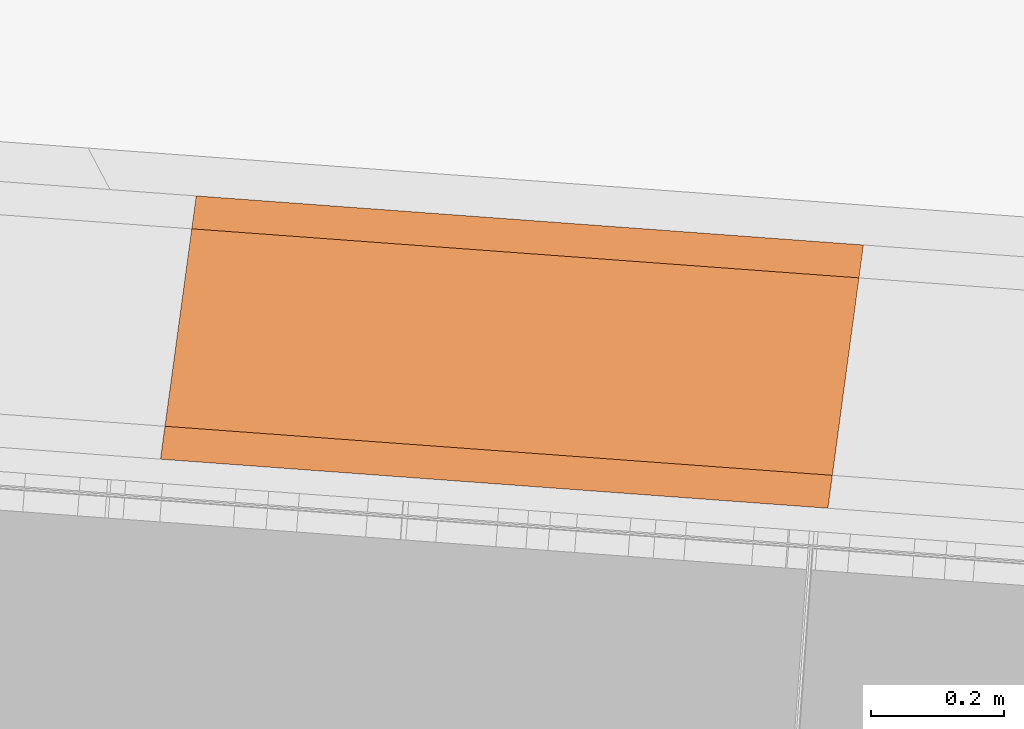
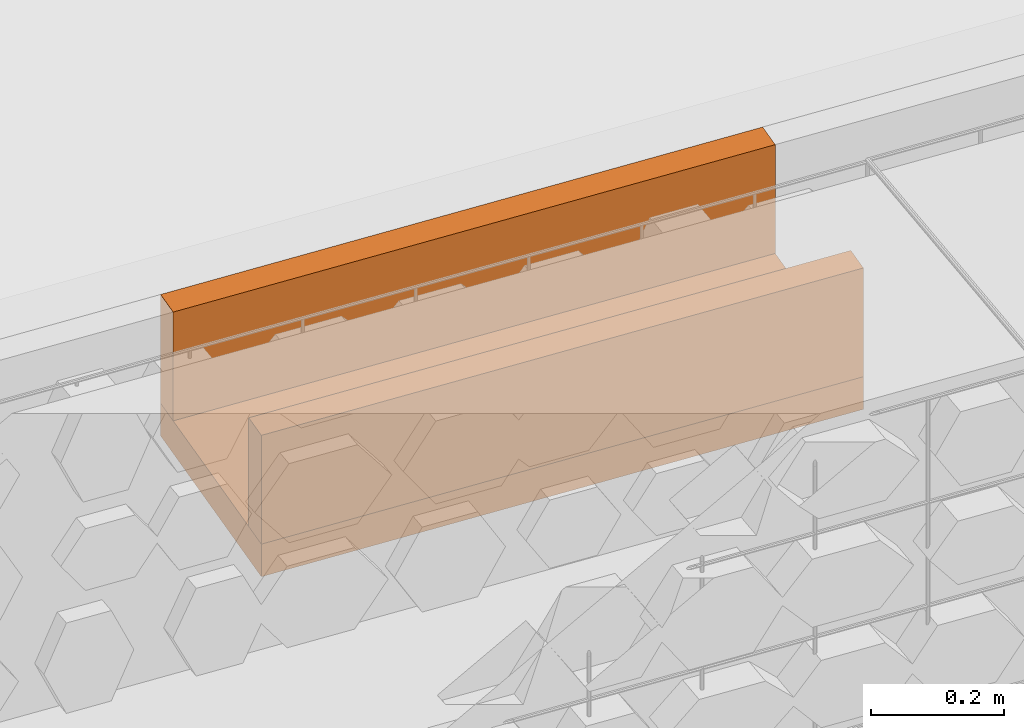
# Not in any storey, part 26 of 45: 3 proxies.
"""IFC4 model written with IfcOpenShell, lengths in metres."""

from ifc_helpers import new_model, si_unit, direction, frame, origin_with_axes, place, context, subcontext, project, spatial, polygons, material, element, save


model = new_model("IFC4")

# Units and contexts
model_context = context("Model", 3, precision=1e-05, world=origin_with_axes(), true_north=direction((0.0, 1.0)))
body_context = subcontext(model_context, "Body", "Model", "MODEL_VIEW")
ifc_project = project(units=[si_unit("VOLUMEUNIT", "CUBIC_METRE"), si_unit("LENGTHUNIT", "METRE"), si_unit("AREAUNIT", "SQUARE_METRE")], contexts=[model_context])

# Site
site_placement = place(None, origin_with_axes())
site = spatial("IfcSite", under=ifc_project, at=site_placement, Name="Lares · Rua das Mercês · artigo 4771")

# Proxies
ifc_material = material(Name="Caleiras · betão", Category="concrete")
proxy_1_placement = place(site_placement, frame((0.0, 0.0, 0.0), z_axis=(0.0, 0.0, 1.0), x_axis=(1.0, -1.03767253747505e-17, 0.0)))
element("IfcBuildingElementProxy", 1, at=proxy_1_placement, inside=site, material=ifc_material, Name="Acesso · canal lateral", ObjectType="Acesso · canal lateral", PredefinedType="USERDEFINED", context=body_context, shape_type="Tessellation", body=[
    polygons([(57.6226760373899, 1.93440152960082, 15.229), (57.6762744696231, 2.33079427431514, 15.229), (58.6809436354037, 2.25691467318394, 15.23), (58.6273452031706, 1.86052192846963, 15.23), (57.6226760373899, 1.93440152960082, 15.289), (57.6762744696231, 2.33079427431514, 15.289), (58.6809436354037, 2.25691467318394, 15.29), (58.6273452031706, 1.86052192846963, 15.29)], [[[4, 3, 2, 1]], [[5, 6, 7, 8]], [[1, 2, 6, 5]], [[2, 3, 7, 6]], [[3, 4, 8, 7]], [[4, 1, 5, 8]]]),
])
proxy_2_placement = place(site_placement, frame((0.0, 0.0, 0.0), z_axis=(0.0, 0.0, 1.0), x_axis=(1.0, -1.03767253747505e-17, 0.0)))
element("IfcBuildingElementProxy", 2, at=proxy_2_placement, inside=site, material=ifc_material, Name="Acesso · canal lateral", ObjectType="Acesso · canal lateral", PredefinedType="USERDEFINED", context=body_context, shape_type="Tessellation", body=[
    polygons([(57.6226760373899, 1.93440152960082, 15.289), (57.629375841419, 1.98395062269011, 15.289), (58.6340450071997, 1.91007102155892, 15.29), (58.6273452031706, 1.86052192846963, 15.29), (57.6226760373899, 1.93440152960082, 15.489), (57.629375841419, 1.98395062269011, 15.489), (58.6340450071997, 1.91007102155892, 15.49), (58.6273452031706, 1.86052192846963, 15.49)], [[[4, 3, 2, 1]], [[5, 6, 7, 8]], [[1, 2, 6, 5]], [[2, 3, 7, 6]], [[3, 4, 8, 7]], [[4, 1, 5, 8]]]),
])
proxy_3_placement = place(site_placement, frame((0.0, 0.0, 0.0), z_axis=(0.0, 0.0, 1.0), x_axis=(1.0, -1.03767253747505e-17, 0.0)))
element("IfcBuildingElementProxy", 3, at=proxy_3_placement, inside=site, material=ifc_material, Name="Acesso · canal lateral", ObjectType="Acesso · canal lateral", PredefinedType="USERDEFINED", context=body_context, shape_type="Tessellation", body=[
    polygons([(57.6695746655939, 2.28124518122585, 15.289), (57.6762744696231, 2.33079427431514, 15.289), (58.6809436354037, 2.25691467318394, 15.29), (58.6742438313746, 2.20736558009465, 15.29), (57.6695746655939, 2.28124518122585, 15.489), (57.6762744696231, 2.33079427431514, 15.489), (58.6809436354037, 2.25691467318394, 15.49), (58.6742438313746, 2.20736558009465, 15.49)], [[[4, 3, 2, 1]], [[5, 6, 7, 8]], [[1, 2, 6, 5]], [[2, 3, 7, 6]], [[3, 4, 8, 7]], [[4, 1, 5, 8]]]),
])

save(model, "model.ifc")
